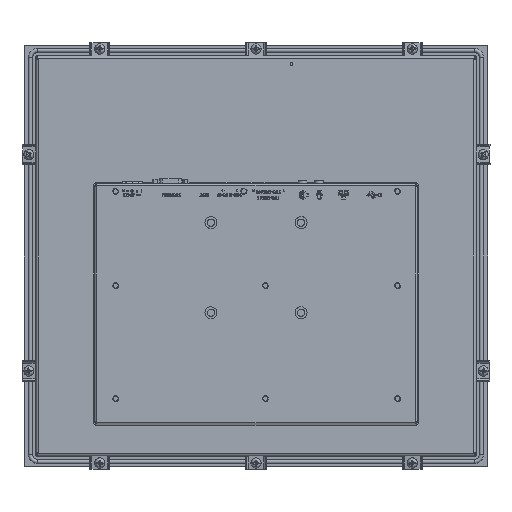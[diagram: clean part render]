
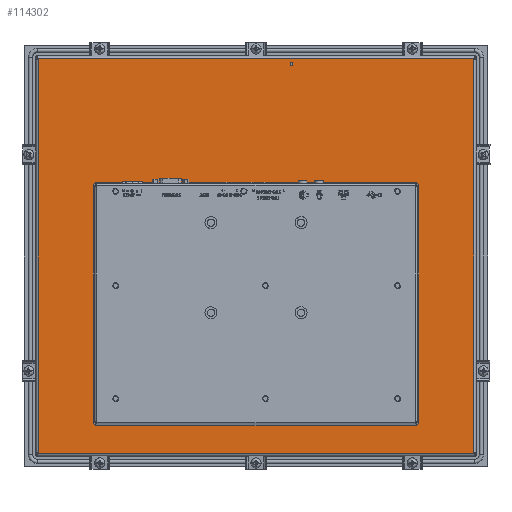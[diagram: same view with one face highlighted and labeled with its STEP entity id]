
A CAD part, front view. The second image highlights one B-rep face of the part: STEP entity #114302.
In plain terms, the highlighted planar face has unit normal (0, -1, 0).
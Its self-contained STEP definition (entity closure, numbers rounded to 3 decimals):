
#281 = CARTESIAN_POINT ( 'NONE',  ( -135.25, -15.85, -133.548 ) ) ;
#323 = DIRECTION ( 'NONE',  ( 0., 0., -1. ) ) ;
#2136 = DIRECTION ( 'NONE',  ( 0., 0., -1. ) ) ;
#2834 = VERTEX_POINT ( 'NONE', #24197 ) ;
#3141 = LINE ( 'NONE', #44970, #46824 ) ;
#3202 = EDGE_CURVE ( 'NONE', #114531, #43647, #118593, .T. ) ;
#3617 = VERTEX_POINT ( 'NONE', #88690 ) ;
#3937 = EDGE_CURVE ( 'NONE', #110981, #72568, #91870, .T. ) ;
#5405 = EDGE_CURVE ( 'NONE', #59259, #2834, #85582, .T. ) ;
#5890 = EDGE_CURVE ( 'NONE', #43647, #117284, #73032, .T. ) ;
#7352 = CARTESIAN_POINT ( 'NONE',  ( -135.25, -15.85, 64.952 ) ) ;
#7397 = EDGE_CURVE ( 'NONE', #95576, #124739, #38551, .T. ) ;
#7971 = CARTESIAN_POINT ( 'NONE',  ( 181.2, -15.85, 5.702 ) ) ;
#8563 = CARTESIAN_POINT ( 'NONE',  ( -181.2, -15.85, -158.748 ) ) ;
#9243 = CARTESIAN_POINT ( 'NONE',  ( -181.2, -15.85, 5.702 ) ) ;
#11720 = LINE ( 'NONE', #105575, #51671 ) ;
#11822 = CARTESIAN_POINT ( 'NONE',  ( 97.25, -15.85, 102.952 ) ) ;
#11866 = CARTESIAN_POINT ( 'NONE',  ( 181.2, -15.85, -157.777 ) ) ;
#12572 = ORIENTED_EDGE ( 'NONE', *, *, #118328, .T. ) ;
#12599 = ORIENTED_EDGE ( 'NONE', *, *, #7397, .T. ) ;
#14120 = LINE ( 'NONE', #107973, #119979 ) ;
#14792 = DIRECTION ( 'NONE',  ( 0., 0., 1. ) ) ;
#15310 = VECTOR ( 'NONE', #65631, 1000. ) ;
#17966 = CARTESIAN_POINT ( 'NONE',  ( 181.2, -15.85, 5.702 ) ) ;
#18237 = EDGE_CURVE ( 'NONE', #81240, #68106, #40755, .T. ) ;
#18249 = CARTESIAN_POINT ( 'NONE',  ( 0., -15.85, 170.152 ) ) ;
#18774 = CARTESIAN_POINT ( 'NONE',  ( -181.2, -15.85, -157.777 ) ) ;
#23242 = EDGE_CURVE ( 'NONE', #90347, #3617, #89029, .T. ) ;
#23399 = CARTESIAN_POINT ( 'NONE',  ( -135.25, -15.85, -135.548 ) ) ;
#23741 = DIRECTION ( 'NONE',  ( -0.707, 0., -0.707 ) ) ;
#23844 = CARTESIAN_POINT ( 'NONE',  ( 133.25, -15.85, -135.548 ) ) ;
#24197 = CARTESIAN_POINT ( 'NONE',  ( 135.25, -15.85, -133.548 ) ) ;
#24681 = DIRECTION ( 'NONE',  ( 0.707, 0., 0.707 ) ) ;
#26364 = ORIENTED_EDGE ( 'NONE', *, *, #5890, .T. ) ;
#27580 = ORIENTED_EDGE ( 'NONE', *, *, #61682, .T. ) ;
#28200 = CARTESIAN_POINT ( 'NONE',  ( 135.25, -15.85, 64.952 ) ) ;
#28537 = LINE ( 'NONE', #91536, #77308 ) ;
#28545 = CARTESIAN_POINT ( 'NONE',  ( 133.25, -15.85, 66.952 ) ) ;
#28934 = VECTOR ( 'NONE', #114875, 1000. ) ;
#29019 = CARTESIAN_POINT ( 'NONE',  ( -133.25, -15.85, 66.952 ) ) ;
#29315 = EDGE_LOOP ( 'NONE', ( #51112, #12599, #101048, #55227, #60906, #39318, #73217, #63579 ) ) ;
#31568 = DIRECTION ( 'NONE',  ( -1., 0., 0. ) ) ;
#32169 = EDGE_CURVE ( 'NONE', #66816, #85616, #28537, .T. ) ;
#32818 = CARTESIAN_POINT ( 'NONE',  ( 135.25, -15.85, -135.548 ) ) ;
#38551 = LINE ( 'NONE', #17966, #70615 ) ;
#39318 = ORIENTED_EDGE ( 'NONE', *, *, #18237, .T. ) ;
#40755 = LINE ( 'NONE', #9243, #110732 ) ;
#40970 = CARTESIAN_POINT ( 'NONE',  ( 181.2, -15.85, 169.181 ) ) ;
#41058 = FACE_BOUND ( 'NONE', #89484, .T. ) ;
#41674 = EDGE_CURVE ( 'NONE', #85616, #95576, #63898, .T. ) ;
#42295 = AXIS2_PLACEMENT_3D ( 'NONE', #93089, #73224, #62262 ) ;
#43300 = CARTESIAN_POINT ( 'NONE',  ( -181.2, -15.85, 169.181 ) ) ;
#43647 = VERTEX_POINT ( 'NONE', #29019 ) ;
#44071 = CARTESIAN_POINT ( 'NONE',  ( 0., -15.85, -158.748 ) ) ;
#44970 = CARTESIAN_POINT ( 'NONE',  ( 181.2, -15.85, 5.702 ) ) ;
#45006 = EDGE_CURVE ( 'NONE', #124362, #110981, #11720, .T. ) ;
#45996 = DIRECTION ( 'NONE',  ( 0., 0., 1. ) ) ;
#46824 = VECTOR ( 'NONE', #14792, 1000. ) ;
#46951 = VECTOR ( 'NONE', #45996, 1000. ) ;
#47883 = EDGE_CURVE ( 'NONE', #68106, #66816, #124836, .T. ) ;
#48849 = EDGE_CURVE ( 'NONE', #3617, #81240, #103202, .T. ) ;
#49465 = CARTESIAN_POINT ( 'NONE',  ( -137.25, -15.85, -131.548 ) ) ;
#49752 = CARTESIAN_POINT ( 'NONE',  ( -181.2, -15.85, 170.152 ) ) ;
#51112 = ORIENTED_EDGE ( 'NONE', *, *, #41674, .T. ) ;
#51671 = VECTOR ( 'NONE', #31568, 1000. ) ;
#53040 = VECTOR ( 'NONE', #2136, 1000. ) ;
#55227 = ORIENTED_EDGE ( 'NONE', *, *, #23242, .T. ) ;
#59259 = VERTEX_POINT ( 'NONE', #28200 ) ;
#60906 = ORIENTED_EDGE ( 'NONE', *, *, #48849, .T. ) ;
#61421 = CARTESIAN_POINT ( 'NONE',  ( -135.25, -15.85, 66.952 ) ) ;
#61682 = EDGE_CURVE ( 'NONE', #2834, #124362, #14120, .T. ) ;
#62262 = DIRECTION ( 'NONE',  ( -1., 0., 0. ) ) ;
#63579 = ORIENTED_EDGE ( 'NONE', *, *, #32169, .T. ) ;
#63686 = ORIENTED_EDGE ( 'NONE', *, *, #3937, .T. ) ;
#63898 = LINE ( 'NONE', #44071, #70350 ) ;
#65125 = CARTESIAN_POINT ( 'NONE',  ( -181.2, -15.85, 5.702 ) ) ;
#65631 = DIRECTION ( 'NONE',  ( 0., 0., -1. ) ) ;
#66816 = VERTEX_POINT ( 'NONE', #18774 ) ;
#67538 = EDGE_CURVE ( 'NONE', #124739, #90347, #3141, .T. ) ;
#68106 = VERTEX_POINT ( 'NONE', #43300 ) ;
#70350 = VECTOR ( 'NONE', #105722, 1000. ) ;
#70615 = VECTOR ( 'NONE', #111893, 1000. ) ;
#72334 = DIRECTION ( 'NONE',  ( -1., 0., 0. ) ) ;
#72568 = VERTEX_POINT ( 'NONE', #281 ) ;
#73032 = LINE ( 'NONE', #61421, #87747 ) ;
#73190 = CARTESIAN_POINT ( 'NONE',  ( -133.25, -15.85, -135.548 ) ) ;
#73217 = ORIENTED_EDGE ( 'NONE', *, *, #47883, .T. ) ;
#73224 = DIRECTION ( 'NONE',  ( 0., 1., 0. ) ) ;
#74036 = EDGE_CURVE ( 'NONE', #72568, #114531, #97310, .T. ) ;
#77308 = VECTOR ( 'NONE', #132820, 1000. ) ;
#81240 = VERTEX_POINT ( 'NONE', #49752 ) ;
#85582 = LINE ( 'NONE', #32818, #15310 ) ;
#85616 = VERTEX_POINT ( 'NONE', #8563 ) ;
#85804 = DIRECTION ( 'NONE',  ( 0.707, 0., -0.707 ) ) ;
#86461 = LINE ( 'NONE', #11822, #101208 ) ;
#87747 = VECTOR ( 'NONE', #114897, 1000. ) ;
#88690 = CARTESIAN_POINT ( 'NONE',  ( 181.2, -15.85, 170.152 ) ) ;
#89029 = LINE ( 'NONE', #7971, #28934 ) ;
#89484 = EDGE_LOOP ( 'NONE', ( #26364, #12572, #94282, #27580, #130876, #63686, #105478, #129164 ) ) ;
#90347 = VERTEX_POINT ( 'NONE', #40970 ) ;
#91536 = CARTESIAN_POINT ( 'NONE',  ( -181.2, -15.85, 5.702 ) ) ;
#91870 = LINE ( 'NONE', #49465, #104604 ) ;
#93089 = CARTESIAN_POINT ( 'NONE',  ( 0., -15.85, 5.702 ) ) ;
#93624 = VECTOR ( 'NONE', #24681, 1000. ) ;
#94282 = ORIENTED_EDGE ( 'NONE', *, *, #5405, .T. ) ;
#95576 = VERTEX_POINT ( 'NONE', #96059 ) ;
#96059 = CARTESIAN_POINT ( 'NONE',  ( 181.2, -15.85, -158.748 ) ) ;
#97310 = LINE ( 'NONE', #23399, #46951 ) ;
#101048 = ORIENTED_EDGE ( 'NONE', *, *, #67538, .T. ) ;
#101208 = VECTOR ( 'NONE', #85804, 1000. ) ;
#103202 = LINE ( 'NONE', #18249, #127883 ) ;
#103423 = FACE_OUTER_BOUND ( 'NONE', #29315, .T. ) ;
#104604 = VECTOR ( 'NONE', #133831, 1000. ) ;
#105478 = ORIENTED_EDGE ( 'NONE', *, *, #74036, .T. ) ;
#105575 = CARTESIAN_POINT ( 'NONE',  ( -135.25, -15.85, -135.548 ) ) ;
#105722 = DIRECTION ( 'NONE',  ( 1., 0., 0. ) ) ;
#107973 = CARTESIAN_POINT ( 'NONE',  ( 137.25, -15.85, -131.548 ) ) ;
#110732 = VECTOR ( 'NONE', #323, 1000. ) ;
#110981 = VERTEX_POINT ( 'NONE', #73190 ) ;
#111893 = DIRECTION ( 'NONE',  ( 0., 0., 1. ) ) ;
#113743 = PLANE ( 'NONE',  #42295 ) ;
#114302 = ADVANCED_FACE ( 'NONE', ( #103423, #41058 ), #113743, .F. ) ;
#114531 = VERTEX_POINT ( 'NONE', #7352 ) ;
#114875 = DIRECTION ( 'NONE',  ( 0., 0., 1. ) ) ;
#114897 = DIRECTION ( 'NONE',  ( 1., 0., 0. ) ) ;
#116574 = CARTESIAN_POINT ( 'NONE',  ( -97.25, -15.85, 102.952 ) ) ;
#117284 = VERTEX_POINT ( 'NONE', #28545 ) ;
#118328 = EDGE_CURVE ( 'NONE', #117284, #59259, #86461, .T. ) ;
#118593 = LINE ( 'NONE', #116574, #93624 ) ;
#119979 = VECTOR ( 'NONE', #23741, 1000. ) ;
#124362 = VERTEX_POINT ( 'NONE', #23844 ) ;
#124739 = VERTEX_POINT ( 'NONE', #11866 ) ;
#124836 = LINE ( 'NONE', #65125, #53040 ) ;
#127883 = VECTOR ( 'NONE', #72334, 1000. ) ;
#129164 = ORIENTED_EDGE ( 'NONE', *, *, #3202, .T. ) ;
#130876 = ORIENTED_EDGE ( 'NONE', *, *, #45006, .T. ) ;
#132820 = DIRECTION ( 'NONE',  ( 0., 0., -1. ) ) ;
#133831 = DIRECTION ( 'NONE',  ( -0.707, 0., 0.707 ) ) ;
